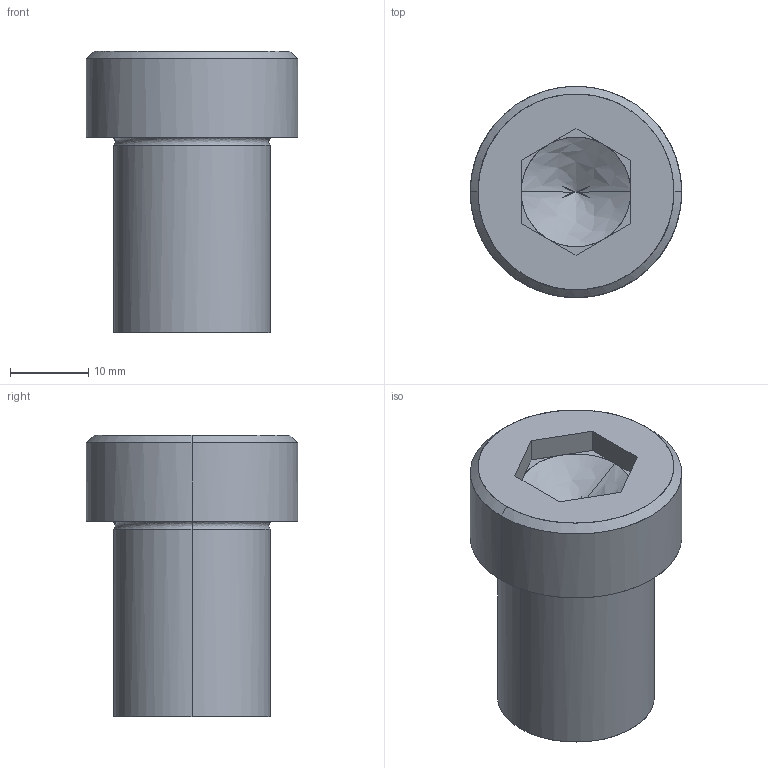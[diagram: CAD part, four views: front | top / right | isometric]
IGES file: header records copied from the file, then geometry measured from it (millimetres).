
Global section: file name: E:\UnigraphicsGraphicData\MISUMI_PRESS-PARTS\IGES\3d_sbtcn20-25_05137_r00.igs; native system: NX V5.0; preprocessor: UGS NX IGES V5.0; author: MISUMI; date: 20110105.162457; units: millimetre
Bounding box: 27 x 27 x 36 mm (x, y, z)
Surface area: 4599.8 mm2 (no closed solid volume)
Topology: 0 solids, 0 shells, 34 faces, 194 edges, 190 vertices
Faces by surface type: bspline 34
